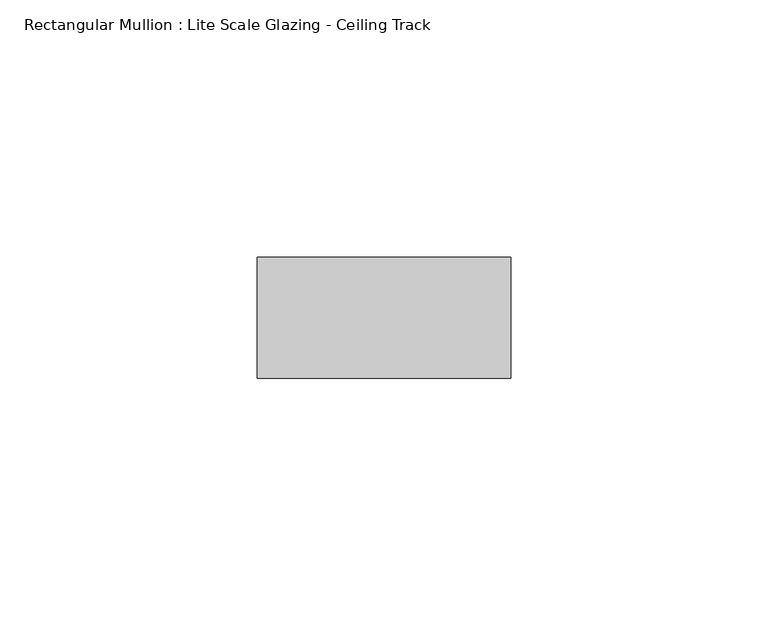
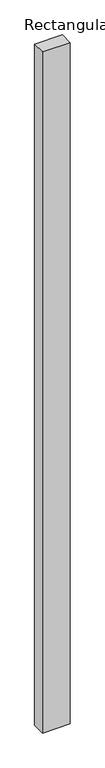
"""IFC4 building model written with IfcOpenShell, lengths in millimetres: member geometry, Rectangular Mullion : Lite Scale Glazing - Ceiling Track."""

from ifc_helpers import new_model, si_unit, frame, origin, place, context, project, spatial, polyline, outline, extrude, source, transform, mapped, element, save


def rectangular_mullion_lite_scale_glazing_ceiling_track_9d31619b(model_context):
    return source(origin(), model_context, "Body", "SweptSolid", [
        extrude(outline(polyline([(-49.276, -11.7474999), (-49.276, 11.7474999), (0.0, 11.7474999), (0.0, -11.7474999), (-49.276, -11.7474999)])), frame((0.0, 0.0, -1277.3816494), z_axis=(0.0, 0.0, 1.0), x_axis=(1.0, 0.0, 0.0)), (0.0, 0.0, 1.0), 1277.3816494),
    ])


if __name__ == "__main__":
    model = new_model("IFC4")
    model_context = context("Model", 3, world=origin())
    ifc_project = project(units=[si_unit("LENGTHUNIT", "METRE", prefix="MILLI")], contexts=[model_context])
    site = spatial("IfcSite", under=ifc_project)
    building = spatial("IfcBuilding", under=site)
    placement = place(None, origin())
    rectangular_mullion_lite_scale_glazing_ceiling_track_shape = rectangular_mullion_lite_scale_glazing_ceiling_track_9d31619b(model_context)
    element("IfcMember", 1, ObjectType="Rectangular Mullion : Lite Scale Glazing - Ceiling Track", at=placement, inside=building, context=model_context, shape_type="MappedRepresentation", body=[
        mapped(rectangular_mullion_lite_scale_glazing_ceiling_track_shape, transform((0.0, 0.0, 0.0), x_axis=(1.0, 0.0, 0.0), y_axis=(0.0, 1.0, 0.0), z_axis=(0.0, 0.0, 1.0))),
    ])
    save(model, "model.ifc")
